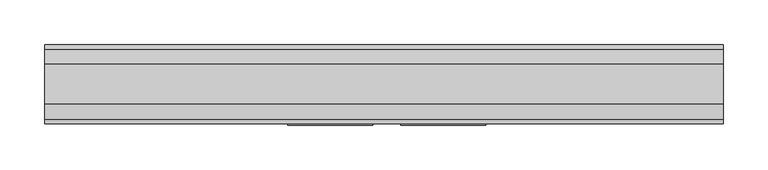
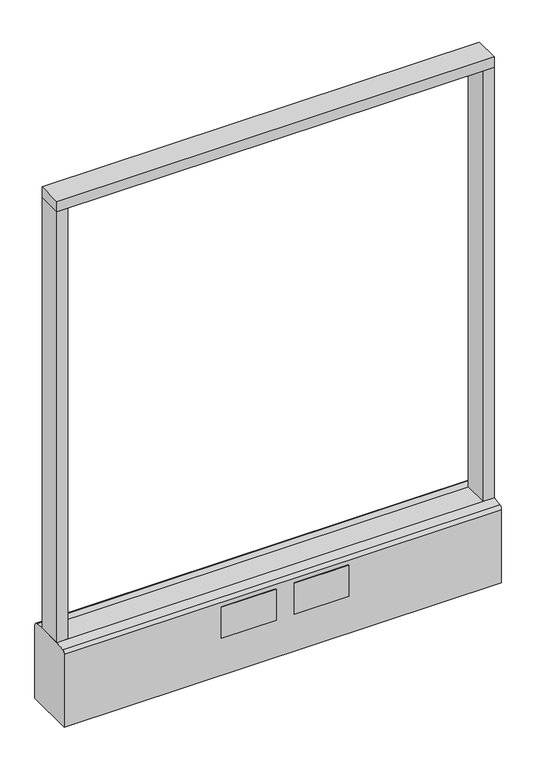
"""IFC4 building model written with IfcOpenShell, lengths in millimetres: furniture geometry."""

from ifc_helpers import new_model, si_unit, point, frame, frame_2d, origin, origin_with_axes, place, context, project, spatial, polyline, circle_curve, trimmed, segment, composite_curve, outline, extrude, source, transform, mapped, element, save


def furniture_bb47e685(model_context):
    return source(origin(), model_context, "Body", "SweptSolid", [
        extrude(outline(polyline([(381.0, -22.225), (-381.0, -22.225), (-381.0, 22.225), (381.0, 22.225), (381.0, -22.225)])), frame((0.0, 0.0, 946.15), z_axis=(0.0, 0.0, 1.0), x_axis=(1.0, 0.0, 0.0)), (0.0, 0.0, 1.0), 19.05),
        extrude(outline(composite_curve([segment(trimmed(circle_curve(frame_2d((-304.8, 0.0)), 23.415625), [point((-328.215625, 0.0))], [point((-281.384375, 0.0))], False, "CARTESIAN"), True, "CONTINUOUS"), segment(trimmed(circle_curve(frame_2d((-304.8, 0.0)), 23.415625), [point((-281.384375, 0.0))], [point((-328.215625, 0.0))], False, "CARTESIAN"), True, "CONTINUOUS")], self_intersect=False)), origin_with_axes(), (0.0, 0.0, 1.0), 6.35),
        extrude(outline(composite_curve([segment(trimmed(circle_curve(frame_2d((304.8, 0.0)), 23.415625), [point((281.384375, 0.0))], [point((328.215625, 0.0))], False, "CARTESIAN"), True, "CONTINUOUS"), segment(trimmed(circle_curve(frame_2d((304.8, 0.0)), 23.415625), [point((328.215625, 0.0))], [point((281.384375, 0.0))], False, "CARTESIAN"), True, "CONTINUOUS")], self_intersect=False)), origin_with_axes(), (0.0, 0.0, 1.0), 6.35),
        extrude(outline(polyline([(-361.9500091, -22.225), (-381.0, -22.225), (-381.0, 22.225), (-361.9500091, 22.225), (-361.9500091, -22.225)])), frame((0.0, 0.0, 152.4), z_axis=(0.0, 0.0, 1.0), x_axis=(1.0, 0.0, 0.0)), (0.0, 0.0, 1.0), 793.75),
        extrude(outline(polyline([(381.0, -22.225), (361.9500091, -22.225), (361.9500091, 22.225), (381.0, 22.225), (381.0, -22.225)])), frame((0.0, 0.0, 152.4), z_axis=(0.0, 0.0, 1.0), x_axis=(1.0, 0.0, 0.0)), (0.0, 0.0, 1.0), 793.75),
        extrude(outline(composite_curve([segment(polyline([(-22.225, 152.4), (22.225, 152.4), (39.43219, 149.94183)]), True, "CONTINUOUS"), segment(trimmed(circle_curve(frame_2d((38.605678, 144.1562464)), 5.844322), [point((39.43219, 149.94183))], [point((44.45, 144.1562464))], False, "CARTESIAN"), True, "CONTINUOUS"), segment(polyline([(44.45, 144.1562464), (44.45, 9.525), (-44.4433083, 9.525), (-44.4433083, 144.1572033)]), True, "CONTINUOUS"), segment(trimmed(circle_curve(frame_2d((-38.5989863, 144.1572033)), 5.844322), [point((-44.4433083, 144.1572033))], [point((-39.4222979, 149.9432432))], False, "CARTESIAN"), True, "CONTINUOUS"), segment(polyline([(-39.4222979, 149.9432432), (-22.225, 152.4)]), True, "CONTINUOUS")], self_intersect=False)), frame((-381.0, 0.0, 0.0), z_axis=(1.0, 0.0, 0.0), x_axis=(0.0, 1.0, 0.0)), (0.0, 0.0, 1.0), 762.0),
        extrude(outline(polyline([(114.3, -46.0375), (19.05, -46.0375), (19.05, -44.45), (114.3, -44.45), (114.3, -46.0375)])), frame((0.0, 0.0, 79.1718), z_axis=(0.0, 0.0, 1.0), x_axis=(1.0, 0.0, 0.0)), (0.0, 0.0, 1.0), 57.15),
        extrude(outline(polyline([(-12.7, -46.0375), (-107.95, -46.0375), (-107.95, -44.45), (-12.7, -44.45), (-12.7, -46.0375)])), frame((0.0, 0.0, 79.1718), z_axis=(0.0, 0.0, 1.0), x_axis=(1.0, 0.0, 0.0)), (0.0, 0.0, 1.0), 57.15),
        extrude(outline(composite_curve([segment(trimmed(circle_curve(frame_2d((-304.8, 0.0)), 5.55625), [point((-310.35625, 0.0))], [point((-299.24375, 0.0))], False, "CARTESIAN"), True, "CONTINUOUS"), segment(trimmed(circle_curve(frame_2d((-304.8, 0.0)), 5.55625), [point((-299.24375, 0.0))], [point((-310.35625, 0.0))], False, "CARTESIAN"), True, "CONTINUOUS")], self_intersect=False)), frame((0.0, 0.0, 6.35), z_axis=(0.0, 0.0, 1.0), x_axis=(1.0, 0.0, 0.0)), (0.0, 0.0, 1.0), 3.175),
        extrude(outline(composite_curve([segment(trimmed(circle_curve(frame_2d((304.8, 0.0)), 5.55625), [point((299.24375, 0.0))], [point((310.35625, 0.0))], False, "CARTESIAN"), True, "CONTINUOUS"), segment(trimmed(circle_curve(frame_2d((304.8, 0.0)), 5.55625), [point((310.35625, 0.0))], [point((299.24375, 0.0))], False, "CARTESIAN"), True, "CONTINUOUS")], self_intersect=False)), frame((0.0, 0.0, 6.35), z_axis=(0.0, 0.0, 1.0), x_axis=(1.0, 0.0, 0.0)), (0.0, 0.0, 1.0), 3.175),
    ])


if __name__ == "__main__":
    model = new_model("IFC4")
    model_context = context("Model", 3, world=origin())
    ifc_project = project(units=[si_unit("LENGTHUNIT", "METRE", prefix="MILLI")], contexts=[model_context])
    site = spatial("IfcSite", under=ifc_project)
    building = spatial("IfcBuilding", under=site)
    placement = place(None, origin())
    furniture_shape = furniture_bb47e685(model_context)
    element("IfcFurniture", 1, ObjectType="HermanMiller_Ethospace_E1109_Frame : 38\"H x 30\"W-H", at=placement, inside=building, context=model_context, shape_type="MappedRepresentation", body=[
        mapped(furniture_shape, transform((0.0, 0.0, 0.0), x_axis=(1.0, 0.0, 0.0), y_axis=(0.0, 1.0, 0.0), z_axis=(0.0, 0.0, 1.0))),
    ])
    save(model, "model.ifc")
